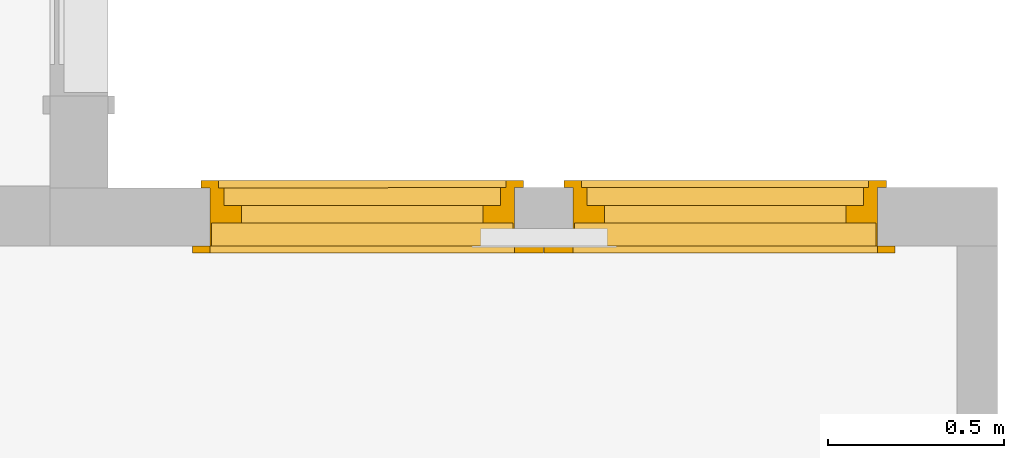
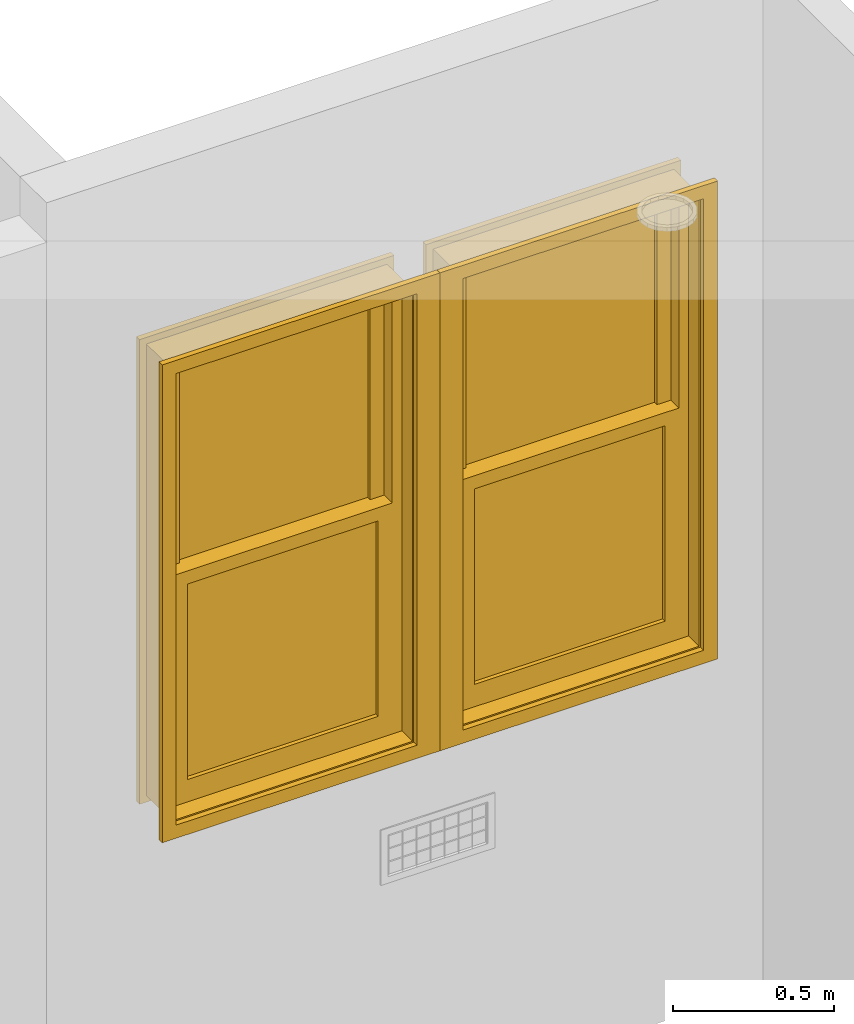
# One storey, part 41 of 77: 2 windows.
"""IFC2X3 building model written with IfcOpenShell, lengths in inches."""

from ifc_helpers import new_model, entity, si_unit, converted_unit, derived_unit, money_unit, direction, frame, origin_with_axes, place, context, subcontext, project, spatial, open_shell, faceted_brep, surface_model, type_object, element, save


model = new_model("IFC2X3")

# Units and contexts
model_context = context("Model", 3, precision=0.000393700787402, world=origin_with_axes(), true_north=direction((0.0, 1.0)))
body_context = subcontext(model_context, "Body", "Model", "MODEL_VIEW")
ifc_project = project(units=[converted_unit("LENGTHUNIT", "INCH", entity("IfcPositiveLengthMeasure", 0.0254), si_unit("LENGTHUNIT", "METRE"), dimensions=[1, 0, 0, 0, 0, 0, 0]), converted_unit("AREAUNIT", "SQUARE_FOOT", entity("IfcPositiveLengthMeasure", 0.09290304), si_unit("AREAUNIT", "SQUARE_METRE"), dimensions=[2, 0, 0, 0, 0, 0, 0]), si_unit("PLANEANGLEUNIT", "RADIAN"), si_unit("SOLIDANGLEUNIT", "STERADIAN"), money_unit("USD"), converted_unit("TIMEUNIT", "Year", entity("IfcTimeMeasure", 31556926.0), si_unit("TIMEUNIT", "SECOND"), dimensions=[0, 0, 1, 0, 0, 0, 0]), si_unit("MASSUNIT", "GRAM", prefix="KILO"), si_unit("THERMODYNAMICTEMPERATUREUNIT", "DEGREE_CELSIUS"), si_unit("LUMINOUSINTENSITYUNIT", "LUMEN"), si_unit("ENERGYUNIT", "JOULE", prefix="MEGA"), derived_unit("THERMALCONDUCTANCEUNIT", [(si_unit("POWERUNIT", "WATT"), 1), (si_unit("LENGTHUNIT", "METRE"), -1), (si_unit("THERMODYNAMICTEMPERATUREUNIT", "KELVIN"), -1)]), derived_unit("SPECIFICHEATCAPACITYUNIT", [(si_unit("ENERGYUNIT", "JOULE"), 1), (si_unit("MASSUNIT", "GRAM", prefix="KILO"), -1), (si_unit("THERMODYNAMICTEMPERATUREUNIT", "KELVIN"), -1)]), derived_unit("MASSDENSITYUNIT", [(si_unit("MASSUNIT", "GRAM", prefix="KILO"), 1), (si_unit("VOLUMEUNIT", "CUBIC_METRE"), -1)])], contexts=[model_context])

# Site, building, storey
site_placement = place(None, origin_with_axes())
site = spatial("IfcSite", under=ifc_project, at=site_placement, Name="Site", CompositionType="ELEMENT")
building_placement = place(site_placement, origin_with_axes())
building = spatial("IfcBuilding", under=site, at=building_placement, Name="Building", CompositionType="ELEMENT")
storey_placement = place(building_placement, frame((0.0, 0.0, 127.952755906), z_axis=(0.0, 0.0, 1.0), x_axis=(1.0, 0.0, 0.0)))
storey = spatial("IfcBuildingStorey", under=building, at=storey_placement, Name="Second Floor", CompositionType="ELEMENT", Elevation=127.953)

# Windows
window_style = type_object("IfcWindowStyle", Name="Double-Hung Window 25", ConstructionType="NOTDEFINED", OperationType="DOUBLE_PANEL_HORIZONTAL", ParameterTakesPrecedence=False, Sizeable=False)
window_1_placement = place(storey_placement, frame((996.735598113, 145.176307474, 27.1653543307), z_axis=(0.0, 0.0, 1.0), x_axis=(-0.999999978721, -0.000206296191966, 0.0)))
element("IfcWindow", 1, at=window_1_placement, inside=storey, type_object=window_style, Name="W-12", OverallHeight=67.5197, OverallWidth=34.0551, context=body_context, shape_type="SurfaceModel", body=[
    faceted_brep([(0.0, -2.56299212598, 0.0), (0.0, 0.0, 0.0), (34.0551181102, 0.0, 0.0), (34.0551181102, -2.56299212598, 0.0), (0.0, -2.56299212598, 67.5196850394), (0.0, 0.0, 67.5196850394), (34.0551181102, 0.0, 67.5196850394), (0.196850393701, 0.0, 0.196850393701), (33.8582677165, 0.0, 0.196850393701), (33.8582677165, 0.0, 67.3228346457), (0.196850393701, 0.0, 67.3228346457), (34.0551181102, -2.56299212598, 67.5196850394), (0.196850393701, -2.56299212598, 0.196850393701), (0.196850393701, -2.56299212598, 67.3228346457), (33.8582677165, -2.56299212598, 67.3228346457), (33.8582677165, -2.56299212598, 0.196850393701)], [[[0, 1, 2, 3]], [[4, 5, 1, 0]], [[1, 5, 6, 2], [7, 8, 9, 10]], [[3, 2, 6, 11]], [[0, 3, 11, 4], [12, 13, 14, 15]], [[11, 6, 5, 4]], [[15, 8, 7, 12]], [[14, 9, 8, 15]], [[13, 10, 9, 14]], [[12, 7, 10, 13]]]),
    faceted_brep([(-1.96850393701, 0.787401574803, -1.96850393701), (0.0, 0.787401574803, 0.0), (0.0, 0.0, 0.0), (-1.96850393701, 0.0, -1.96850393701), (-1.96850393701, 0.787401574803, 69.4881889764), (0.0, 0.787401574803, 67.5196850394), (0.0, 0.0, 67.5196850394), (-1.96850393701, 0.0, 69.4881889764)], [[[0, 1, 2, 3]], [[0, 4, 5, 1]], [[1, 5, 6, 2]], [[3, 2, 6, 7]], [[4, 0, 3, 7]], [[5, 4, 7, 6]]]),
    faceted_brep([(37.2834645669, 0.787401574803, 69.4881889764), (34.0551181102, 0.787401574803, 67.5196850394), (34.0551181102, 0.0, 67.5196850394), (37.2834645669, 0.0, 69.4881889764), (37.2834645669, 0.787401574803, -1.96850393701), (34.0551181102, 0.787401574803, 0.0), (34.0551181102, 0.0, 0.0), (37.2834645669, 0.0, -1.96850393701)], [[[0, 1, 2, 3]], [[0, 4, 5, 1]], [[1, 5, 6, 2]], [[3, 2, 6, 7]], [[4, 0, 3, 7]], [[5, 4, 7, 6]]]),
    faceted_brep([(37.2834645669, 0.787401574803, -1.96850393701), (34.0551181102, 0.787401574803, 0.0), (34.0551181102, 0.0, 0.0), (37.2834645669, 0.0, -1.96850393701), (-1.96850393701, 0.787401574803, -1.96850393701), (0.0, 0.787401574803, 0.0), (0.0, 0.0, 0.0), (-1.96850393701, 0.0, -1.96850393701)], [[[0, 1, 2, 3]], [[0, 4, 5, 1]], [[1, 5, 6, 2]], [[3, 2, 6, 7]], [[4, 0, 3, 7]], [[5, 4, 7, 6]]]),
    faceted_brep([(-1.96850393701, 0.787401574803, 69.4881889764), (0.0, 0.787401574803, 67.5196850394), (0.0, 0.0, 67.5196850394), (-1.96850393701, 0.0, 69.4881889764), (37.2834645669, 0.787401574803, 69.4881889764), (34.0551181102, 0.787401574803, 67.5196850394), (34.0551181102, 0.0, 67.5196850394), (37.2834645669, 0.0, 69.4881889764)], [[[0, 1, 2, 3]], [[0, 4, 5, 1]], [[1, 5, 6, 2]], [[3, 2, 6, 7]], [[4, 0, 3, 7]], [[5, 4, 7, 6]]]),
    faceted_brep([(-0.984251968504, -7.2874015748, -0.984251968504), (-0.984251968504, -6.5, -0.984251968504), (0.984251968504, -6.5, 0.984251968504), (0.984251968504, -7.2874015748, 0.984251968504), (-0.984251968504, -7.2874015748, 68.5039370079), (-0.984251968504, -6.5, 68.5039370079), (0.984251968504, -6.5, 66.5354330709), (0.984251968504, -7.2874015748, 66.5354330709)], [[[0, 1, 2, 3]], [[4, 5, 1, 0]], [[1, 5, 6, 2]], [[3, 2, 6, 7]], [[0, 3, 7, 4]], [[7, 6, 5, 4]]]),
    faceted_brep([(35.0393700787, -7.2874015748, 68.5039370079), (35.0393700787, -6.5, 68.5039370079), (33.0708661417, -6.5, 66.5354330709), (33.0708661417, -7.2874015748, 66.5354330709), (35.0393700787, -7.2874015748, -0.984251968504), (35.0393700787, -6.5, -0.984251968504), (33.0708661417, -6.5, 0.984251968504), (33.0708661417, -7.2874015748, 0.984251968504)], [[[0, 1, 2, 3]], [[4, 5, 1, 0]], [[1, 5, 6, 2]], [[3, 2, 6, 7]], [[0, 3, 7, 4]], [[7, 6, 5, 4]]]),
    faceted_brep([(35.0393700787, -7.2874015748, -0.984251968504), (35.0393700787, -6.5, -0.984251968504), (33.0708661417, -6.5, 0.984251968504), (33.0708661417, -7.2874015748, 0.984251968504), (-0.984251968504, -7.2874015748, -0.984251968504), (-0.984251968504, -6.5, -0.984251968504), (0.984251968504, -6.5, 0.984251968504), (0.984251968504, -7.2874015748, 0.984251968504)], [[[0, 1, 2, 3]], [[4, 5, 1, 0]], [[1, 5, 6, 2]], [[3, 2, 6, 7]], [[0, 3, 7, 4]], [[7, 6, 5, 4]]]),
    faceted_brep([(-0.984251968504, -7.2874015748, 68.5039370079), (-0.984251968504, -6.5, 68.5039370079), (0.984251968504, -6.5, 66.5354330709), (0.984251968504, -7.2874015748, 66.5354330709), (35.0393700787, -7.2874015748, 68.5039370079), (35.0393700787, -6.5, 68.5039370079), (33.0708661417, -6.5, 66.5354330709), (33.0708661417, -7.2874015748, 66.5354330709)], [[[0, 1, 2, 3]], [[4, 5, 1, 0]], [[1, 5, 6, 2]], [[3, 2, 6, 7]], [[0, 3, 7, 4]], [[7, 6, 5, 4]]]),
    faceted_brep([(1.57480314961, -6.5, 65.9448818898), (1.57480314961, -2.56299212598, 65.9448818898), (0.0, -2.56299212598, 65.9448818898), (0.0, -6.5, 65.9448818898), (1.57480314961, -6.5, 1.57480314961), (1.57480314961, -2.56299212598, 1.57480314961), (0.0, -2.56299212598, 1.57480314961), (0.0, -6.5, 1.57480314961)], [[[0, 1, 2, 3]], [[4, 5, 1, 0]], [[1, 5, 6, 2]], [[3, 2, 6, 7]], [[0, 3, 7, 4]], [[7, 6, 5, 4]]]),
    faceted_brep([(32.4803149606, -6.5, 1.57480314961), (32.4803149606, -2.56299212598, 1.57480314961), (34.0551181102, -2.56299212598, 1.57480314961), (34.0551181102, -6.5, 1.57480314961), (32.4803149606, -6.5, 65.9448818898), (32.4803149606, -2.56299212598, 65.9448818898), (34.0551181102, -2.56299212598, 65.9448818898), (34.0551181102, -6.5, 65.9448818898)], [[[0, 1, 2, 3]], [[4, 5, 1, 0]], [[1, 5, 6, 2]], [[3, 2, 6, 7]], [[0, 3, 7, 4]], [[7, 6, 5, 4]]]),
    faceted_brep([(1.57480314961, -6.5, 1.57480314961), (1.57480314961, -2.56299212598, 1.57480314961), (0.0, -2.56299212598, 1.57480314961), (0.0, -6.5, 1.57480314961), (32.4803149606, -6.5, 1.57480314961), (32.4803149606, -2.56299212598, 1.57480314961), (34.0551181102, -2.56299212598, 1.57480314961), (34.0551181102, -2.56299212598, 0.0), (0.0, -2.56299212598, 0.0), (0.0, -6.5, 0.0), (34.0551181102, -6.5, 0.0), (34.0551181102, -6.5, 1.57480314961)], [[[0, 1, 2, 3]], [[4, 5, 1, 0]], [[1, 5, 6, 7, 8, 2]], [[3, 2, 8, 9]], [[0, 3, 9, 10, 11, 4]], [[11, 6, 5, 4]], [[10, 7, 6, 11]], [[9, 8, 7, 10]]]),
    faceted_brep([(32.4803149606, -6.5, 65.9448818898), (32.4803149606, -2.56299212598, 65.9448818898), (34.0551181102, -2.56299212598, 65.9448818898), (34.0551181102, -6.5, 65.9448818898), (1.57480314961, -6.5, 65.9448818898), (1.57480314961, -2.56299212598, 65.9448818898), (0.0, -2.56299212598, 65.9448818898), (0.0, -2.56299212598, 67.5196850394), (34.0551181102, -2.56299212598, 67.5196850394), (34.0551181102, -6.5, 67.5196850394), (0.0, -6.5, 67.5196850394), (0.0, -6.5, 65.9448818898)], [[[0, 1, 2, 3]], [[4, 5, 1, 0]], [[1, 5, 6, 7, 8, 2]], [[3, 2, 8, 9]], [[0, 3, 9, 10, 11, 4]], [[11, 6, 5, 4]], [[10, 7, 6, 11]], [[9, 8, 7, 10]]]),
    faceted_brep([(3.54330708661, -4.53149606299, 32.7755905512), (3.54330708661, -2.56299212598, 32.7755905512), (1.57480314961, -2.56299212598, 32.7755905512), (1.57480314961, -4.53149606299, 32.7755905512), (3.54330708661, -4.53149606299, 3.54330708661), (3.54330708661, -2.56299212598, 3.54330708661), (1.57480314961, -2.56299212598, 3.54330708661), (1.57480314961, -4.53149606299, 3.54330708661)], [[[0, 1, 2, 3]], [[4, 5, 1, 0]], [[1, 5, 6, 2]], [[3, 2, 6, 7]], [[0, 3, 7, 4]], [[7, 6, 5, 4]]]),
    faceted_brep([(30.5118110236, -4.53149606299, 3.54330708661), (30.5118110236, -2.56299212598, 3.54330708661), (32.4803149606, -2.56299212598, 3.54330708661), (32.4803149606, -4.53149606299, 3.54330708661), (30.5118110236, -4.53149606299, 32.7755905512), (30.5118110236, -2.56299212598, 32.7755905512), (32.4803149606, -2.56299212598, 32.7755905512), (32.4803149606, -4.53149606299, 32.7755905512)], [[[0, 1, 2, 3]], [[4, 5, 1, 0]], [[1, 5, 6, 2]], [[3, 2, 6, 7]], [[0, 3, 7, 4]], [[7, 6, 5, 4]]]),
    faceted_brep([(32.4803149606, -4.53149606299, 1.57480314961), (32.4803149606, -2.56299212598, 1.57480314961), (32.4803149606, -2.56299212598, 3.54330708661), (32.4803149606, -4.53149606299, 3.54330708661), (1.57480314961, -4.53149606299, 1.57480314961), (1.57480314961, -2.56299212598, 1.57480314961), (1.57480314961, -2.56299212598, 3.54330708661), (3.54330708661, -2.56299212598, 3.54330708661), (30.5118110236, -2.56299212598, 3.54330708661), (30.5118110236, -4.53149606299, 3.54330708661), (3.54330708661, -4.53149606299, 3.54330708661), (1.57480314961, -4.53149606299, 3.54330708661)], [[[0, 1, 2, 3]], [[4, 5, 1, 0]], [[1, 5, 6, 7, 8, 2]], [[3, 2, 8, 9]], [[0, 3, 9, 10, 11, 4]], [[11, 6, 5, 4]], [[10, 7, 6, 11]], [[9, 8, 7, 10]]]),
    faceted_brep([(1.57480314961, -4.53149606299, 34.7440944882), (1.57480314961, -2.56299212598, 34.7440944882), (1.57480314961, -2.56299212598, 32.7755905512), (1.57480314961, -4.53149606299, 32.7755905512), (32.4803149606, -4.53149606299, 34.7440944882), (32.4803149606, -2.56299212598, 34.7440944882), (32.4803149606, -2.56299212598, 32.7755905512), (30.5118110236, -2.56299212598, 32.7755905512), (3.54330708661, -2.56299212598, 32.7755905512), (3.54330708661, -4.53149606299, 32.7755905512), (30.5118110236, -4.53149606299, 32.7755905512), (32.4803149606, -4.53149606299, 32.7755905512)], [[[0, 1, 2, 3]], [[4, 5, 1, 0]], [[1, 5, 6, 7, 8, 2]], [[3, 2, 8, 9]], [[0, 3, 9, 10, 11, 4]], [[11, 6, 5, 4]], [[10, 7, 6, 11]], [[9, 8, 7, 10]]]),
    surface_model("IfcShellBasedSurfaceModel", [(3.54330708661, -3.94094488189, 3.54330708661), (30.5118110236, -3.94094488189, 3.54330708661), (30.5118110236, -3.94094488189, 32.7755905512), (3.54330708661, -3.94094488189, 32.7755905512)], [open_shell([[[0, 1, 2, 3]]])]),
    surface_model("IfcShellBasedSurfaceModel", [(3.54330708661, -3.15354330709, 3.54330708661), (3.54330708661, -3.15354330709, 32.7755905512), (30.5118110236, -3.15354330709, 32.7755905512), (30.5118110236, -3.15354330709, 3.54330708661)], [open_shell([[[0, 1, 2, 3]]])]),
    faceted_brep([(3.54330708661, -6.5, 63.9763779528), (3.54330708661, -4.53149606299, 63.9763779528), (1.57480314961, -4.53149606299, 63.9763779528), (1.57480314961, -6.5, 63.9763779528), (3.54330708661, -6.5, 34.7440944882), (3.54330708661, -4.53149606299, 34.7440944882), (1.57480314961, -4.53149606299, 34.7440944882), (1.57480314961, -6.5, 34.7440944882)], [[[0, 1, 2, 3]], [[4, 5, 1, 0]], [[1, 5, 6, 2]], [[3, 2, 6, 7]], [[0, 3, 7, 4]], [[7, 6, 5, 4]]]),
    faceted_brep([(30.5118110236, -6.5, 34.7440944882), (30.5118110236, -4.53149606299, 34.7440944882), (32.4803149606, -4.53149606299, 34.7440944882), (32.4803149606, -6.5, 34.7440944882), (30.5118110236, -6.5, 63.9763779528), (30.5118110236, -4.53149606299, 63.9763779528), (32.4803149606, -4.53149606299, 63.9763779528), (32.4803149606, -6.5, 63.9763779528)], [[[0, 1, 2, 3]], [[4, 5, 1, 0]], [[1, 5, 6, 2]], [[3, 2, 6, 7]], [[0, 3, 7, 4]], [[7, 6, 5, 4]]]),
    faceted_brep([(32.4803149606, -6.5, 32.7755905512), (32.4803149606, -4.53149606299, 32.7755905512), (32.4803149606, -4.53149606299, 34.7440944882), (32.4803149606, -6.5, 34.7440944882), (1.57480314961, -6.5, 32.7755905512), (1.57480314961, -4.53149606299, 32.7755905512), (1.57480314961, -4.53149606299, 34.7440944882), (3.54330708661, -4.53149606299, 34.7440944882), (30.5118110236, -4.53149606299, 34.7440944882), (30.5118110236, -6.5, 34.7440944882), (3.54330708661, -6.5, 34.7440944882), (1.57480314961, -6.5, 34.7440944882)], [[[0, 1, 2, 3]], [[4, 5, 1, 0]], [[1, 5, 6, 7, 8, 2]], [[3, 2, 8, 9]], [[0, 3, 9, 10, 11, 4]], [[11, 6, 5, 4]], [[10, 7, 6, 11]], [[9, 8, 7, 10]]]),
    faceted_brep([(1.57480314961, -6.5, 65.9448818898), (1.57480314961, -4.53149606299, 65.9448818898), (1.57480314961, -4.53149606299, 63.9763779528), (1.57480314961, -6.5, 63.9763779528), (32.4803149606, -6.5, 65.9448818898), (32.4803149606, -4.53149606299, 65.9448818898), (32.4803149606, -4.53149606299, 63.9763779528), (30.5118110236, -4.53149606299, 63.9763779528), (3.54330708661, -4.53149606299, 63.9763779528), (3.54330708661, -6.5, 63.9763779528), (30.5118110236, -6.5, 63.9763779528), (32.4803149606, -6.5, 63.9763779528)], [[[0, 1, 2, 3]], [[4, 5, 1, 0]], [[1, 5, 6, 7, 8, 2]], [[3, 2, 8, 9]], [[0, 3, 9, 10, 11, 4]], [[11, 6, 5, 4]], [[10, 7, 6, 11]], [[9, 8, 7, 10]]]),
    surface_model("IfcShellBasedSurfaceModel", [(3.54330708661, -5.9094488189, 34.7440944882), (30.5118110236, -5.9094488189, 34.7440944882), (30.5118110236, -5.9094488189, 63.9763779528), (3.54330708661, -5.9094488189, 63.9763779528)], [open_shell([[[0, 1, 2, 3]]])]),
    surface_model("IfcShellBasedSurfaceModel", [(3.54330708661, -5.12204724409, 34.7440944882), (3.54330708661, -5.12204724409, 63.9763779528), (30.5118110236, -5.12204724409, 63.9763779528), (30.5118110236, -5.12204724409, 34.7440944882)], [open_shell([[[0, 1, 2, 3]]])]),
])
window_2_placement = place(storey_placement, frame((956.179413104, 145.167940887, 27.1653543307), z_axis=(0.0, 0.0, 1.0), x_axis=(-0.999999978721, -0.000206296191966, 0.0)))
element("IfcWindow", 2, at=window_2_placement, inside=storey, type_object=window_style, Name="W-13", OverallHeight=67.5197, OverallWidth=34.0551, context=body_context, shape_type="SurfaceModel", body=[
    faceted_brep([(34.0551181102, -2.56299212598, 0.0), (0.0, -2.56299212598, 0.0), (0.0, 0.0, 0.0), (34.0551181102, 0.0, 0.0), (34.0551181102, -2.56299212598, 67.5196850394), (0.0, -2.56299212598, 67.5196850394), (33.8582677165, -2.56299212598, 0.196850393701), (0.196850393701, -2.56299212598, 0.196850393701), (0.196850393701, -2.56299212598, 67.3228346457), (33.8582677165, -2.56299212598, 67.3228346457), (0.0, 0.0, 67.5196850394), (34.0551181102, 0.0, 67.5196850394), (33.8582677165, 0.0, 0.196850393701), (33.8582677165, 0.0, 67.3228346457), (0.196850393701, 0.0, 67.3228346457), (0.196850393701, 0.0, 0.196850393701)], [[[0, 1, 2, 3]], [[0, 4, 5, 1], [6, 7, 8, 9]], [[1, 5, 10, 2]], [[3, 2, 10, 11], [12, 13, 14, 15]], [[4, 0, 3, 11]], [[5, 4, 11, 10]], [[7, 6, 12, 15]], [[8, 7, 15, 14]], [[9, 8, 14, 13]], [[6, 9, 13, 12]]]),
    faceted_brep([(36.0236220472, 0.787401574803, -1.96850393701), (36.0236220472, 0.0, -1.96850393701), (34.0551181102, 0.0, 0.0), (34.0551181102, 0.787401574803, 0.0), (36.0236220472, 0.787401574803, 69.4881889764), (36.0236220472, 0.0, 69.4881889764), (34.0551181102, 0.0, 67.5196850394), (34.0551181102, 0.787401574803, 67.5196850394)], [[[0, 1, 2, 3]], [[4, 5, 1, 0]], [[1, 5, 6, 2]], [[3, 2, 6, 7]], [[0, 3, 7, 4]], [[7, 6, 5, 4]]]),
    faceted_brep([(-3.22834645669, 0.787401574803, 69.4881889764), (-3.22834645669, 0.0, 69.4881889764), (0.0, 0.0, 67.5196850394), (0.0, 0.787401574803, 67.5196850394), (-3.22834645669, 0.787401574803, -1.96850393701), (-3.22834645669, 0.0, -1.96850393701), (0.0, 0.0, 0.0), (0.0, 0.787401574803, 0.0)], [[[0, 1, 2, 3]], [[4, 5, 1, 0]], [[1, 5, 6, 2]], [[3, 2, 6, 7]], [[0, 3, 7, 4]], [[7, 6, 5, 4]]]),
    faceted_brep([(-3.22834645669, 0.787401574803, -1.96850393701), (-3.22834645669, 0.0, -1.96850393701), (0.0, 0.0, 0.0), (0.0, 0.787401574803, 0.0), (36.0236220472, 0.787401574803, -1.96850393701), (36.0236220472, 0.0, -1.96850393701), (34.0551181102, 0.0, 0.0), (34.0551181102, 0.787401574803, 0.0)], [[[0, 1, 2, 3]], [[4, 5, 1, 0]], [[1, 5, 6, 2]], [[3, 2, 6, 7]], [[0, 3, 7, 4]], [[7, 6, 5, 4]]]),
    faceted_brep([(36.0236220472, 0.787401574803, 69.4881889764), (36.0236220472, 0.0, 69.4881889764), (34.0551181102, 0.0, 67.5196850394), (34.0551181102, 0.787401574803, 67.5196850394), (-3.22834645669, 0.787401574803, 69.4881889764), (-3.22834645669, 0.0, 69.4881889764), (0.0, 0.0, 67.5196850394), (0.0, 0.787401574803, 67.5196850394)], [[[0, 1, 2, 3]], [[4, 5, 1, 0]], [[1, 5, 6, 2]], [[3, 2, 6, 7]], [[0, 3, 7, 4]], [[7, 6, 5, 4]]]),
    faceted_brep([(35.0393700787, -7.2874015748, -0.984251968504), (33.0708661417, -7.2874015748, 0.984251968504), (33.0708661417, -6.5, 0.984251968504), (35.0393700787, -6.5, -0.984251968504), (35.0393700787, -7.2874015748, 68.5039370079), (33.0708661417, -7.2874015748, 66.5354330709), (33.0708661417, -6.5, 66.5354330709), (35.0393700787, -6.5, 68.5039370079)], [[[0, 1, 2, 3]], [[0, 4, 5, 1]], [[1, 5, 6, 2]], [[3, 2, 6, 7]], [[4, 0, 3, 7]], [[5, 4, 7, 6]]]),
    faceted_brep([(-0.984251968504, -7.2874015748, 68.5039370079), (0.984251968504, -7.2874015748, 66.5354330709), (0.984251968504, -6.5, 66.5354330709), (-0.984251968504, -6.5, 68.5039370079), (-0.984251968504, -7.2874015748, -0.984251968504), (0.984251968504, -7.2874015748, 0.984251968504), (0.984251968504, -6.5, 0.984251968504), (-0.984251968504, -6.5, -0.984251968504)], [[[0, 1, 2, 3]], [[0, 4, 5, 1]], [[1, 5, 6, 2]], [[3, 2, 6, 7]], [[4, 0, 3, 7]], [[5, 4, 7, 6]]]),
    faceted_brep([(-0.984251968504, -7.2874015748, -0.984251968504), (0.984251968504, -7.2874015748, 0.984251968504), (0.984251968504, -6.5, 0.984251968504), (-0.984251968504, -6.5, -0.984251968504), (35.0393700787, -7.2874015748, -0.984251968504), (33.0708661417, -7.2874015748, 0.984251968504), (33.0708661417, -6.5, 0.984251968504), (35.0393700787, -6.5, -0.984251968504)], [[[0, 1, 2, 3]], [[0, 4, 5, 1]], [[1, 5, 6, 2]], [[3, 2, 6, 7]], [[4, 0, 3, 7]], [[5, 4, 7, 6]]]),
    faceted_brep([(35.0393700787, -7.2874015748, 68.5039370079), (33.0708661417, -7.2874015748, 66.5354330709), (33.0708661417, -6.5, 66.5354330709), (35.0393700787, -6.5, 68.5039370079), (-0.984251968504, -7.2874015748, 68.5039370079), (0.984251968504, -7.2874015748, 66.5354330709), (0.984251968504, -6.5, 66.5354330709), (-0.984251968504, -6.5, 68.5039370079)], [[[0, 1, 2, 3]], [[0, 4, 5, 1]], [[1, 5, 6, 2]], [[3, 2, 6, 7]], [[4, 0, 3, 7]], [[5, 4, 7, 6]]]),
    faceted_brep([(32.4803149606, -6.5, 65.9448818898), (34.0551181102, -6.5, 65.9448818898), (34.0551181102, -2.56299212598, 65.9448818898), (32.4803149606, -2.56299212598, 65.9448818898), (32.4803149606, -6.5, 1.57480314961), (34.0551181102, -6.5, 1.57480314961), (34.0551181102, -2.56299212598, 1.57480314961), (32.4803149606, -2.56299212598, 1.57480314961)], [[[0, 1, 2, 3]], [[0, 4, 5, 1]], [[1, 5, 6, 2]], [[3, 2, 6, 7]], [[4, 0, 3, 7]], [[5, 4, 7, 6]]]),
    faceted_brep([(1.57480314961, -6.5, 1.57480314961), (0.0, -6.5, 1.57480314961), (0.0, -2.56299212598, 1.57480314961), (1.57480314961, -2.56299212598, 1.57480314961), (1.57480314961, -6.5, 65.9448818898), (0.0, -6.5, 65.9448818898), (0.0, -2.56299212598, 65.9448818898), (1.57480314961, -2.56299212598, 65.9448818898)], [[[0, 1, 2, 3]], [[0, 4, 5, 1]], [[1, 5, 6, 2]], [[3, 2, 6, 7]], [[4, 0, 3, 7]], [[5, 4, 7, 6]]]),
    faceted_brep([(32.4803149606, -6.5, 1.57480314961), (34.0551181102, -6.5, 1.57480314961), (34.0551181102, -2.56299212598, 1.57480314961), (32.4803149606, -2.56299212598, 1.57480314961), (1.57480314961, -6.5, 1.57480314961), (0.0, -6.5, 1.57480314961), (0.0, -6.5, 0.0), (34.0551181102, -6.5, 0.0), (34.0551181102, -2.56299212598, 0.0), (0.0, -2.56299212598, 0.0), (0.0, -2.56299212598, 1.57480314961), (1.57480314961, -2.56299212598, 1.57480314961)], [[[0, 1, 2, 3]], [[0, 4, 5, 6, 7, 1]], [[1, 7, 8, 2]], [[3, 2, 8, 9, 10, 11]], [[4, 0, 3, 11]], [[5, 4, 11, 10]], [[6, 5, 10, 9]], [[7, 6, 9, 8]]]),
    faceted_brep([(1.57480314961, -6.5, 65.9448818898), (0.0, -6.5, 65.9448818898), (0.0, -2.56299212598, 65.9448818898), (1.57480314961, -2.56299212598, 65.9448818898), (32.4803149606, -6.5, 65.9448818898), (34.0551181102, -6.5, 65.9448818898), (34.0551181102, -6.5, 67.5196850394), (0.0, -6.5, 67.5196850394), (0.0, -2.56299212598, 67.5196850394), (34.0551181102, -2.56299212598, 67.5196850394), (34.0551181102, -2.56299212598, 65.9448818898), (32.4803149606, -2.56299212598, 65.9448818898)], [[[0, 1, 2, 3]], [[0, 4, 5, 6, 7, 1]], [[1, 7, 8, 2]], [[3, 2, 8, 9, 10, 11]], [[4, 0, 3, 11]], [[5, 4, 11, 10]], [[6, 5, 10, 9]], [[7, 6, 9, 8]]]),
    faceted_brep([(30.5118110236, -4.53149606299, 32.7755905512), (32.4803149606, -4.53149606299, 32.7755905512), (32.4803149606, -2.56299212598, 32.7755905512), (30.5118110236, -2.56299212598, 32.7755905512), (30.5118110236, -4.53149606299, 3.54330708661), (32.4803149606, -4.53149606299, 3.54330708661), (32.4803149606, -2.56299212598, 3.54330708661), (30.5118110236, -2.56299212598, 3.54330708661)], [[[0, 1, 2, 3]], [[0, 4, 5, 1]], [[1, 5, 6, 2]], [[3, 2, 6, 7]], [[4, 0, 3, 7]], [[5, 4, 7, 6]]]),
    faceted_brep([(3.54330708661, -4.53149606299, 3.54330708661), (1.57480314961, -4.53149606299, 3.54330708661), (1.57480314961, -2.56299212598, 3.54330708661), (3.54330708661, -2.56299212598, 3.54330708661), (3.54330708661, -4.53149606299, 32.7755905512), (1.57480314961, -4.53149606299, 32.7755905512), (1.57480314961, -2.56299212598, 32.7755905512), (3.54330708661, -2.56299212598, 32.7755905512)], [[[0, 1, 2, 3]], [[0, 4, 5, 1]], [[1, 5, 6, 2]], [[3, 2, 6, 7]], [[4, 0, 3, 7]], [[5, 4, 7, 6]]]),
    faceted_brep([(1.57480314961, -4.53149606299, 1.57480314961), (1.57480314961, -4.53149606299, 3.54330708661), (1.57480314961, -2.56299212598, 3.54330708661), (1.57480314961, -2.56299212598, 1.57480314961), (32.4803149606, -4.53149606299, 1.57480314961), (32.4803149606, -4.53149606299, 3.54330708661), (30.5118110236, -4.53149606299, 3.54330708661), (3.54330708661, -4.53149606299, 3.54330708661), (3.54330708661, -2.56299212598, 3.54330708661), (30.5118110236, -2.56299212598, 3.54330708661), (32.4803149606, -2.56299212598, 3.54330708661), (32.4803149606, -2.56299212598, 1.57480314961)], [[[0, 1, 2, 3]], [[0, 4, 5, 6, 7, 1]], [[1, 7, 8, 2]], [[3, 2, 8, 9, 10, 11]], [[4, 0, 3, 11]], [[5, 4, 11, 10]], [[6, 5, 10, 9]], [[7, 6, 9, 8]]]),
    faceted_brep([(32.4803149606, -4.53149606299, 34.7440944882), (32.4803149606, -4.53149606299, 32.7755905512), (32.4803149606, -2.56299212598, 32.7755905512), (32.4803149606, -2.56299212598, 34.7440944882), (1.57480314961, -4.53149606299, 34.7440944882), (1.57480314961, -4.53149606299, 32.7755905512), (3.54330708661, -4.53149606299, 32.7755905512), (30.5118110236, -4.53149606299, 32.7755905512), (30.5118110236, -2.56299212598, 32.7755905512), (3.54330708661, -2.56299212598, 32.7755905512), (1.57480314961, -2.56299212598, 32.7755905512), (1.57480314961, -2.56299212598, 34.7440944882)], [[[0, 1, 2, 3]], [[0, 4, 5, 6, 7, 1]], [[1, 7, 8, 2]], [[3, 2, 8, 9, 10, 11]], [[4, 0, 3, 11]], [[5, 4, 11, 10]], [[6, 5, 10, 9]], [[7, 6, 9, 8]]]),
    surface_model("IfcShellBasedSurfaceModel", [(30.5118110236, -3.94094488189, 3.54330708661), (30.5118110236, -3.94094488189, 32.7755905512), (3.54330708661, -3.94094488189, 32.7755905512), (3.54330708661, -3.94094488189, 3.54330708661)], [open_shell([[[0, 1, 2, 3]]])]),
    surface_model("IfcShellBasedSurfaceModel", [(30.5118110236, -3.15354330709, 3.54330708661), (3.54330708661, -3.15354330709, 3.54330708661), (3.54330708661, -3.15354330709, 32.7755905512), (30.5118110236, -3.15354330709, 32.7755905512)], [open_shell([[[0, 1, 2, 3]]])]),
    faceted_brep([(30.5118110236, -6.5, 63.9763779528), (32.4803149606, -6.5, 63.9763779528), (32.4803149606, -4.53149606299, 63.9763779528), (30.5118110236, -4.53149606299, 63.9763779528), (30.5118110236, -6.5, 34.7440944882), (32.4803149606, -6.5, 34.7440944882), (32.4803149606, -4.53149606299, 34.7440944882), (30.5118110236, -4.53149606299, 34.7440944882)], [[[0, 1, 2, 3]], [[0, 4, 5, 1]], [[1, 5, 6, 2]], [[3, 2, 6, 7]], [[4, 0, 3, 7]], [[5, 4, 7, 6]]]),
    faceted_brep([(3.54330708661, -6.5, 34.7440944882), (1.57480314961, -6.5, 34.7440944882), (1.57480314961, -4.53149606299, 34.7440944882), (3.54330708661, -4.53149606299, 34.7440944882), (3.54330708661, -6.5, 63.9763779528), (1.57480314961, -6.5, 63.9763779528), (1.57480314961, -4.53149606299, 63.9763779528), (3.54330708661, -4.53149606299, 63.9763779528)], [[[0, 1, 2, 3]], [[0, 4, 5, 1]], [[1, 5, 6, 2]], [[3, 2, 6, 7]], [[4, 0, 3, 7]], [[5, 4, 7, 6]]]),
    faceted_brep([(1.57480314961, -6.5, 32.7755905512), (1.57480314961, -6.5, 34.7440944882), (1.57480314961, -4.53149606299, 34.7440944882), (1.57480314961, -4.53149606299, 32.7755905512), (32.4803149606, -6.5, 32.7755905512), (32.4803149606, -6.5, 34.7440944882), (30.5118110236, -6.5, 34.7440944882), (3.54330708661, -6.5, 34.7440944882), (3.54330708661, -4.53149606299, 34.7440944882), (30.5118110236, -4.53149606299, 34.7440944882), (32.4803149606, -4.53149606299, 34.7440944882), (32.4803149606, -4.53149606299, 32.7755905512)], [[[0, 1, 2, 3]], [[0, 4, 5, 6, 7, 1]], [[1, 7, 8, 2]], [[3, 2, 8, 9, 10, 11]], [[4, 0, 3, 11]], [[5, 4, 11, 10]], [[6, 5, 10, 9]], [[7, 6, 9, 8]]]),
    faceted_brep([(32.4803149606, -6.5, 65.9448818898), (32.4803149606, -6.5, 63.9763779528), (32.4803149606, -4.53149606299, 63.9763779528), (32.4803149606, -4.53149606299, 65.9448818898), (1.57480314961, -6.5, 65.9448818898), (1.57480314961, -6.5, 63.9763779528), (3.54330708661, -6.5, 63.9763779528), (30.5118110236, -6.5, 63.9763779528), (30.5118110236, -4.53149606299, 63.9763779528), (3.54330708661, -4.53149606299, 63.9763779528), (1.57480314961, -4.53149606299, 63.9763779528), (1.57480314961, -4.53149606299, 65.9448818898)], [[[0, 1, 2, 3]], [[0, 4, 5, 6, 7, 1]], [[1, 7, 8, 2]], [[3, 2, 8, 9, 10, 11]], [[4, 0, 3, 11]], [[5, 4, 11, 10]], [[6, 5, 10, 9]], [[7, 6, 9, 8]]]),
    surface_model("IfcShellBasedSurfaceModel", [(30.5118110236, -5.9094488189, 34.7440944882), (30.5118110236, -5.9094488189, 63.9763779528), (3.54330708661, -5.9094488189, 63.9763779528), (3.54330708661, -5.9094488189, 34.7440944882)], [open_shell([[[0, 1, 2, 3]]])]),
    surface_model("IfcShellBasedSurfaceModel", [(30.5118110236, -5.12204724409, 34.7440944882), (3.54330708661, -5.12204724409, 34.7440944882), (3.54330708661, -5.12204724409, 63.9763779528), (30.5118110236, -5.12204724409, 63.9763779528)], [open_shell([[[0, 1, 2, 3]]])]),
])

save(model, "model.ifc")
